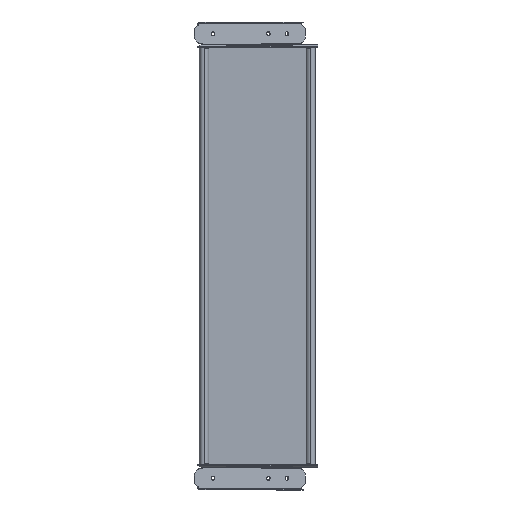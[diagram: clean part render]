
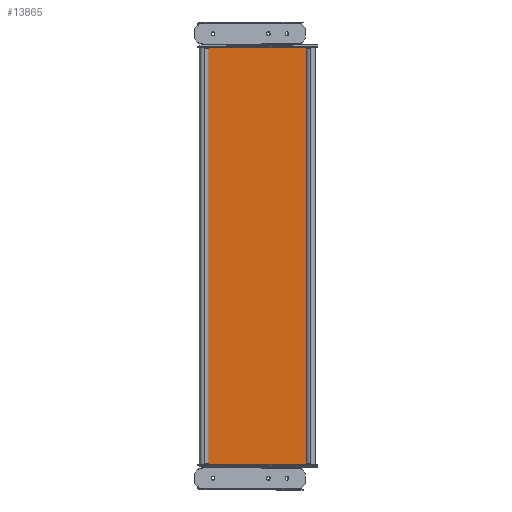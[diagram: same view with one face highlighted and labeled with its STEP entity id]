
A CAD part, front view. The second image highlights one B-rep face of the part: STEP entity #13865.
In plain terms, the highlighted planar face has unit normal (0, -1, 0).
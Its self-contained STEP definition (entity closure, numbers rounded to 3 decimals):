
#185 = AXIS2_PLACEMENT_3D ( 'NONE', #8100, #9657, #13419 ) ;
#501 = CARTESIAN_POINT ( 'NONE',  ( 117., -2., 900. ) ) ;
#622 = AXIS2_PLACEMENT_3D ( 'NONE', #14778, #5673, #7050 ) ;
#1116 = CARTESIAN_POINT ( 'NONE',  ( 117., -2., 0. ) ) ;
#1295 = DIRECTION ( 'NONE',  ( 1., 0., 0. ) ) ;
#1305 = AXIS2_PLACEMENT_3D ( 'NONE', #11690, #8449, #14314 ) ;
#1394 = CARTESIAN_POINT ( 'NONE',  ( -123., -2., 0. ) ) ;
#1752 = CARTESIAN_POINT ( 'NONE',  ( -121.5, -2., 900. ) ) ;
#1782 = EDGE_CURVE ( 'NONE', #7712, #18947, #10549, .T. ) ;
#2382 = CARTESIAN_POINT ( 'NONE',  ( -125., -2., 0. ) ) ;
#2834 = EDGE_CURVE ( 'NONE', #15886, #15481, #13756, .T. ) ;
#3306 = CARTESIAN_POINT ( 'NONE',  ( 121.5, -2., 894.191 ) ) ;
#3319 = CARTESIAN_POINT ( 'NONE',  ( 121.5, -2., 5.809 ) ) ;
#4070 = EDGE_CURVE ( 'NONE', #9597, #15886, #14701, .T. ) ;
#4423 = FACE_OUTER_BOUND ( 'NONE', #5205, .T. ) ;
#4687 = CARTESIAN_POINT ( 'NONE',  ( -125., -2., 900. ) ) ;
#4979 = EDGE_CURVE ( 'NONE', #17045, #18947, #12326, .T. ) ;
#5080 = EDGE_CURVE ( 'NONE', #15481, #6103, #7125, .T. ) ;
#5117 = EDGE_CURVE ( 'NONE', #6103, #16661, #11796, .T. ) ;
#5205 = EDGE_LOOP ( 'NONE', ( #18818, #18559, #15006, #18806, #14180, #8435, #13052, #11404 ) ) ;
#5432 = CARTESIAN_POINT ( 'NONE',  ( 123., -2., 900. ) ) ;
#5673 = DIRECTION ( 'NONE',  ( 0., -1., 0. ) ) ;
#6051 = DIRECTION ( 'NONE',  ( 0., -1., 0. ) ) ;
#6103 = VERTEX_POINT ( 'NONE', #7904 ) ;
#6502 = CIRCLE ( 'NONE', #8676, 6. ) ;
#6566 = CARTESIAN_POINT ( 'NONE',  ( -121.5, -2., 894.191 ) ) ;
#6909 = DIRECTION ( 'NONE',  ( 0., -1., 0. ) ) ;
#6981 = CARTESIAN_POINT ( 'NONE',  ( -117., -2., 900. ) ) ;
#7050 = DIRECTION ( 'NONE',  ( 1., 0., 0. ) ) ;
#7125 = LINE ( 'NONE', #2382, #13256 ) ;
#7712 = VERTEX_POINT ( 'NONE', #501 ) ;
#7904 = CARTESIAN_POINT ( 'NONE',  ( -117., -2., 0. ) ) ;
#8032 = VECTOR ( 'NONE', #19188, 1000. ) ;
#8100 = CARTESIAN_POINT ( 'NONE',  ( -123., -2., 900. ) ) ;
#8435 = ORIENTED_EDGE ( 'NONE', *, *, #16108, .T. ) ;
#8449 = DIRECTION ( 'NONE',  ( 0., -1., 0. ) ) ;
#8638 = DIRECTION ( 'NONE',  ( 1., 0., 0. ) ) ;
#8676 = AXIS2_PLACEMENT_3D ( 'NONE', #5432, #6909, #8638 ) ;
#9597 = VERTEX_POINT ( 'NONE', #3306 ) ;
#9657 = DIRECTION ( 'NONE',  ( 0., -1., 0. ) ) ;
#10523 = LINE ( 'NONE', #1752, #16596 ) ;
#10549 = LINE ( 'NONE', #4687, #11878 ) ;
#11404 = ORIENTED_EDGE ( 'NONE', *, *, #5080, .F. ) ;
#11690 = CARTESIAN_POINT ( 'NONE',  ( 123., -2., 0. ) ) ;
#11796 = CIRCLE ( 'NONE', #17093, 6. ) ;
#11878 = VECTOR ( 'NONE', #13842, 1000. ) ;
#12326 = CIRCLE ( 'NONE', #185, 6. ) ;
#12791 = DIRECTION ( 'NONE',  ( -1., 0., 0. ) ) ;
#13052 = ORIENTED_EDGE ( 'NONE', *, *, #5117, .F. ) ;
#13256 = VECTOR ( 'NONE', #12791, 1000. ) ;
#13419 = DIRECTION ( 'NONE',  ( 1., 0., 0. ) ) ;
#13756 = CIRCLE ( 'NONE', #1305, 6. ) ;
#13842 = DIRECTION ( 'NONE',  ( -1., 0., 0. ) ) ;
#13865 = ADVANCED_FACE ( 'NONE', ( #4423 ), #17710, .T. ) ;
#14180 = ORIENTED_EDGE ( 'NONE', *, *, #4979, .F. ) ;
#14314 = DIRECTION ( 'NONE',  ( 1., 0., 0. ) ) ;
#14701 = LINE ( 'NONE', #18896, #8032 ) ;
#14778 = CARTESIAN_POINT ( 'NONE',  ( -125., -2., 900. ) ) ;
#14835 = CARTESIAN_POINT ( 'NONE',  ( -121.5, -2., 5.809 ) ) ;
#15006 = ORIENTED_EDGE ( 'NONE', *, *, #19321, .F. ) ;
#15210 = DIRECTION ( 'NONE',  ( 0., 0., -1. ) ) ;
#15481 = VERTEX_POINT ( 'NONE', #1116 ) ;
#15886 = VERTEX_POINT ( 'NONE', #3319 ) ;
#16108 = EDGE_CURVE ( 'NONE', #17045, #16661, #10523, .T. ) ;
#16596 = VECTOR ( 'NONE', #15210, 1000. ) ;
#16661 = VERTEX_POINT ( 'NONE', #14835 ) ;
#17045 = VERTEX_POINT ( 'NONE', #6566 ) ;
#17093 = AXIS2_PLACEMENT_3D ( 'NONE', #1394, #6051, #1295 ) ;
#17710 = PLANE ( 'NONE',  #622 ) ;
#18559 = ORIENTED_EDGE ( 'NONE', *, *, #4070, .F. ) ;
#18806 = ORIENTED_EDGE ( 'NONE', *, *, #1782, .T. ) ;
#18818 = ORIENTED_EDGE ( 'NONE', *, *, #2834, .F. ) ;
#18896 = CARTESIAN_POINT ( 'NONE',  ( 121.5, -2., 900. ) ) ;
#18947 = VERTEX_POINT ( 'NONE', #6981 ) ;
#19188 = DIRECTION ( 'NONE',  ( 0., 0., -1. ) ) ;
#19321 = EDGE_CURVE ( 'NONE', #7712, #9597, #6502, .T. ) ;
